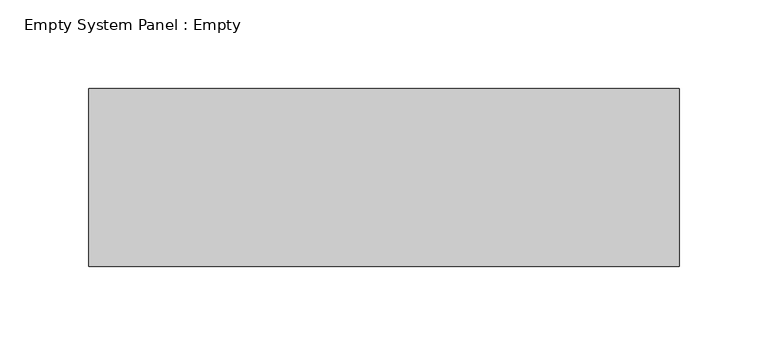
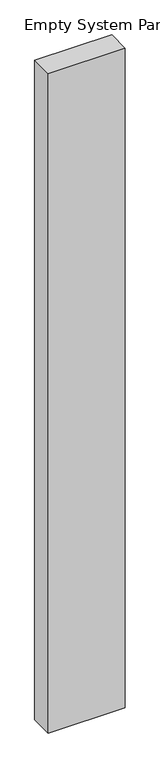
"""IFC4 building model written with IfcOpenShell, lengths in millimetres: plate geometry, Empty System Panel : Empty."""

from ifc_helpers import new_model, si_unit, origin, origin_with_axes, place, context, project, spatial, polyline, outline, extrude, source, transform, mapped, element, save


def empty_system_panel_empty_729ff3de(model_context):
    return source(origin(), model_context, "Body", "SweptSolid", [
        extrude(outline(polyline([(166.0588745, -50.0), (-166.0588745, -50.0), (-166.0588745, 50.0), (166.0588745, 50.0), (166.0588745, -50.0)])), origin_with_axes(), (0.0, 0.0, 1.0), 3000.0),
    ])


if __name__ == "__main__":
    model = new_model("IFC4")
    model_context = context("Model", 3, world=origin())
    ifc_project = project(units=[si_unit("LENGTHUNIT", "METRE", prefix="MILLI")], contexts=[model_context])
    site = spatial("IfcSite", under=ifc_project)
    building = spatial("IfcBuilding", under=site)
    placement = place(None, origin())
    empty_system_panel_empty_shape = empty_system_panel_empty_729ff3de(model_context)
    element("IfcPlate", 1, ObjectType="Empty System Panel : Empty", at=placement, inside=building, context=model_context, shape_type="MappedRepresentation", body=[
        mapped(empty_system_panel_empty_shape, transform((0.0, 0.0, 0.0), x_axis=(1.0, 0.0, 0.0), y_axis=(0.0, 1.0, 0.0), z_axis=(0.0, 0.0, 1.0))),
    ])
    save(model, "model.ifc")
